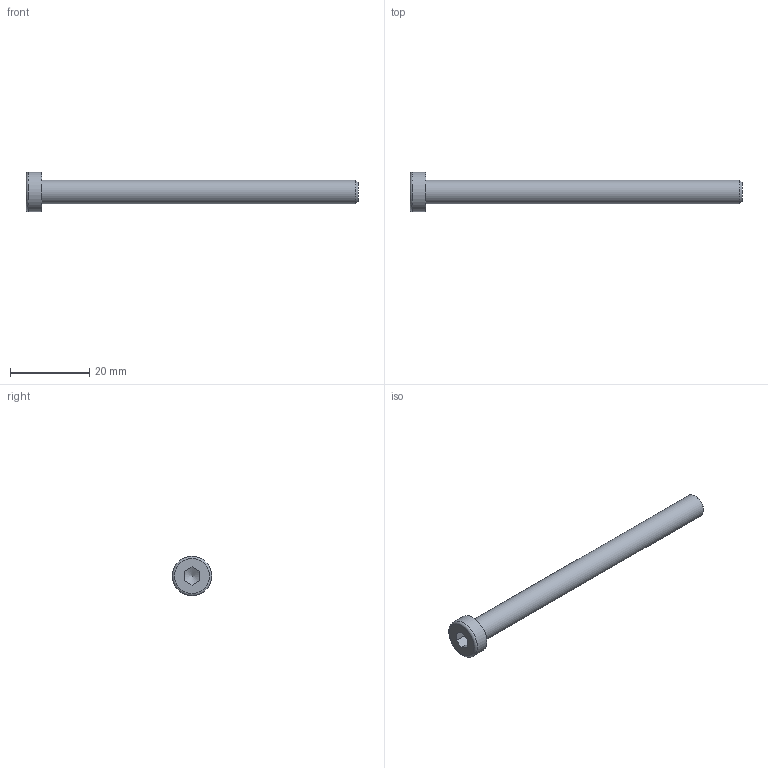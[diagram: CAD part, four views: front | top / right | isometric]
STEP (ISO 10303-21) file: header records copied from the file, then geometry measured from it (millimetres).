
FILE_DESCRIPTION((''),'2;1');
FILE_NAME('C:\Documents and Settings\Administrator\My Documents\Andys Backup Data\ANDY''S INVENTOR\INVENTOR LIBRARIES\MINITEC INVENTOR LIBRARIES\FASTENING ELEMENTS\SCREWS CAP\step\21.1199 M6X80.stp','2010-06-30T08:48:18',('Administrator'),(''),'Autodesk Inventor 2009','Autodesk Inventor 2009','');
FILE_SCHEMA(('AUTOMOTIVE_DESIGN { 1 0 10303 214 1 1 1 1 }'));
Length unit declared in the file: millimetre
Products named in the file (1): 21.1199 M6X80
Bounding box: 84 x 10 x 10 mm (x, y, z)
Volume: 2521.6 mm3; surface area: 1820.5 mm2
Topology: 1 solids, 1 shells, 14 faces, 30 edges, 19 vertices
Faces by surface type: plane 9, cone 2, cylinder 2, torus 1
Full cylindrical faces by diameter (mm): 6 x1, 10 x1
Entity records: 362 total; most frequent: CARTESIAN_POINT 69, DIRECTION 54, ORIENTED_EDGE 48, EDGE_CURVE 24, AXIS2_PLACEMENT_3D 21, EDGE_LOOP 20, VERTEX_POINT 18, FACE_OUTER_BOUND 14
